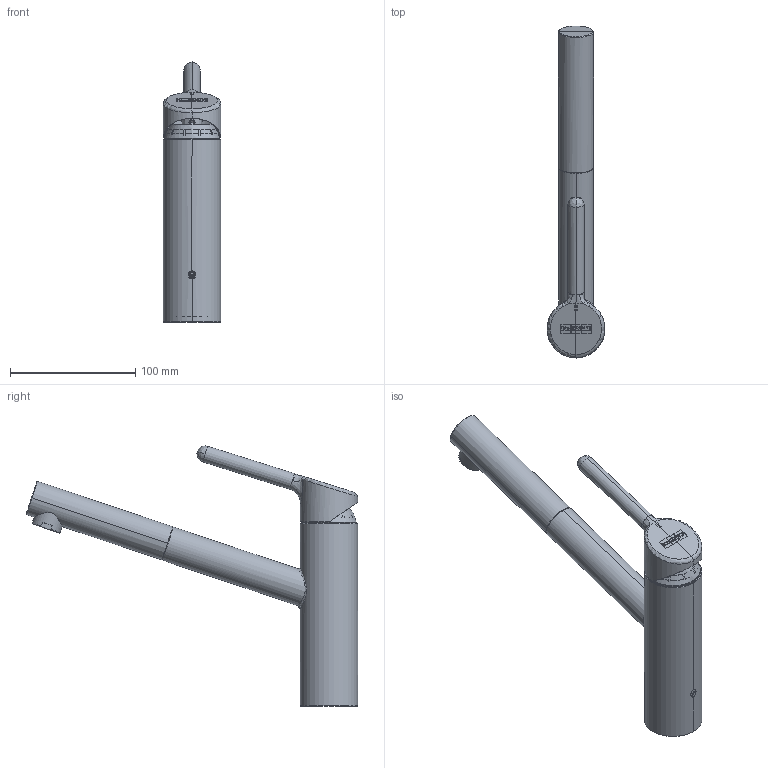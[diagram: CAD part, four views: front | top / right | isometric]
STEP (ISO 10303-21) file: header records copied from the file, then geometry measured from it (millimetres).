
FILE_DESCRIPTION(/* description */ (''),/* implementation_level */ '2;1');
FILE_NAME(/* name */ '3D001_Taps_Orbit_Pull-Out-Nozzle',/* time_stamp */ '2024-01-31T15:08:19+01:00',/* author */ (''),/* organization */ (''),/* preprocessor_version */ 'ST-DEVELOPER v19.2',/* originating_system */ 'Rhino 8.3',/* authorisation */ '');
FILE_SCHEMA (('CONFIG_CONTROL_DESIGN'));
Length unit declared in the file: millimetre
Products named in the file (9): Document; 30100595; A30340-003; A30340-013; K14501; Blocco 02; A30310-017; A30340-002; A30340-004
Bounding box: 46.1 x 265.27 x 208.17 mm (x, y, z)
Volume: 131115.6 mm3; surface area: 108071.2 mm2
Topology: 16 solids, 16 shells, 761 faces, 1899 edges, 1183 vertices
Faces by surface type: plane 335, bspline 247, cylinder 179
Entity records: 39666 total; most frequent: CARTESIAN_POINT 23950, ORIENTED_EDGE 3790, EDGE_CURVE 1895, DIRECTION 1616, B_SPLINE_CURVE_WITH_KNOTS 1370, VERTEX_POINT 1183, AXIS2_PLACEMENT_3D 1065, EDGE_LOOP 812
